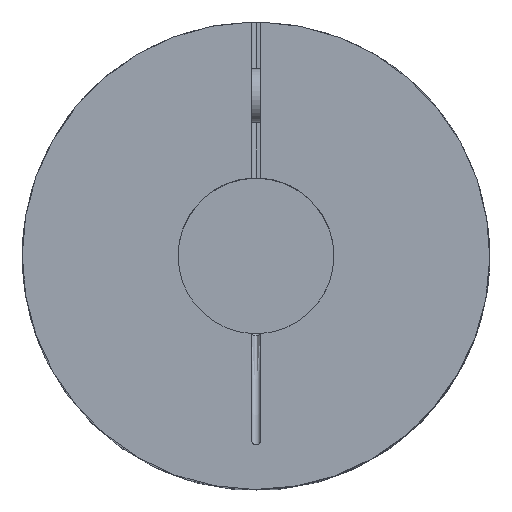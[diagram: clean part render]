
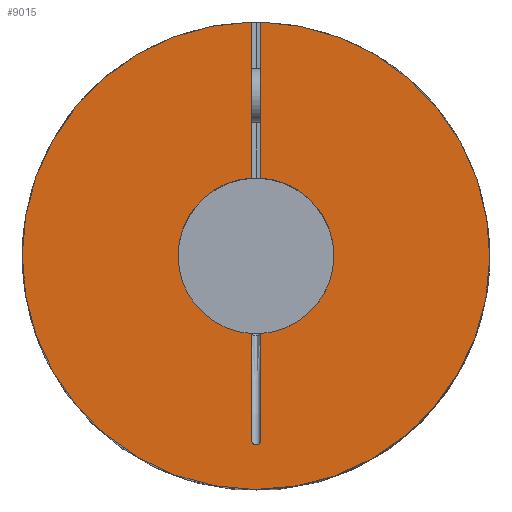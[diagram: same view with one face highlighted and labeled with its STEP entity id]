
A CAD part, top view. The second image highlights one B-rep face of the part: STEP entity #9015.
In plain terms, the highlighted planar face has unit normal (0, 0, 1).
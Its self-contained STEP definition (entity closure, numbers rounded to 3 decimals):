
#58=CARTESIAN_POINT('',(0.,0.,70.));
#59=DIRECTION('',(0.,0.,1.));
#60=DIRECTION('',(-0.057,0.998,0.));
#61=AXIS2_PLACEMENT_3D('',#58,#59,#60);
#63=DIRECTION('',(0.,-1.,0.));
#64=VECTOR('',#63,23.907);
#65=CARTESIAN_POINT('',(-1.,-17.471,70.));
#66=LINE('',#65,#64);
#67=CARTESIAN_POINT('',(-1.,-41.378,70.));
#68=CARTESIAN_POINT('',(-1.,-41.459,70.));
#69=CARTESIAN_POINT('',(-0.985,-41.614,70.));
#70=CARTESIAN_POINT('',(-0.92,-41.838,70.));
#71=CARTESIAN_POINT('',(-0.818,-42.036,70.));
#72=CARTESIAN_POINT('',(-0.686,-42.204,70.));
#73=CARTESIAN_POINT('',(-0.532,-42.336,70.));
#74=CARTESIAN_POINT('',(-0.363,-42.431,70.));
#75=CARTESIAN_POINT('',(-0.184,-42.487,70.));
#76=CARTESIAN_POINT('',(0.,-42.506,70.));
#77=CARTESIAN_POINT('',(0.184,-42.487,70.));
#78=CARTESIAN_POINT('',(0.363,-42.431,70.));
#79=CARTESIAN_POINT('',(0.532,-42.336,70.));
#80=CARTESIAN_POINT('',(0.686,-42.204,70.));
#81=CARTESIAN_POINT('',(0.818,-42.036,70.));
#82=CARTESIAN_POINT('',(0.92,-41.838,70.));
#83=CARTESIAN_POINT('',(0.985,-41.614,70.));
#84=CARTESIAN_POINT('',(1.,-41.459,70.));
#85=CARTESIAN_POINT('',(1.,-41.378,70.));
#87=DIRECTION('',(0.,-1.,0.));
#88=VECTOR('',#87,23.907);
#89=CARTESIAN_POINT('',(1.,-17.471,70.));
#90=LINE('',#89,#88);
#91=CARTESIAN_POINT('',(0.,0.,70.));
#92=DIRECTION('',(0.,0.,1.));
#93=DIRECTION('',(0.057,-0.998,0.));
#94=AXIS2_PLACEMENT_3D('',#91,#92,#93);
#96=DIRECTION('',(0.,-1.,0.));
#97=VECTOR('',#96,35.019);
#98=CARTESIAN_POINT('',(1.,52.49,70.));
#99=LINE('',#98,#97);
#100=CARTESIAN_POINT('',(0.,0.,70.));
#101=DIRECTION('',(0.,0.,-1.));
#102=DIRECTION('',(-1.,0.,0.));
#103=AXIS2_PLACEMENT_3D('',#100,#101,#102);
#105=DIRECTION('',(0.,-1.,0.));
#106=VECTOR('',#105,35.019);
#107=CARTESIAN_POINT('',(-1.,52.49,70.));
#108=LINE('',#107,#106);
#2810=CARTESIAN_POINT('',(0.,0.,70.));
#2811=DIRECTION('',(0.,0.,1.));
#2812=DIRECTION('',(-1.,0.,0.));
#2813=AXIS2_PLACEMENT_3D('',#2810,#2811,#2812);
#7311=CARTESIAN_POINT('',(-52.5,0.,70.));
#7313=VERTEX_POINT('',#7311);
#7465=CARTESIAN_POINT('',(1.,52.49,70.));
#7467=VERTEX_POINT('',#7465);
#7469=CARTESIAN_POINT('',(-1.,52.49,70.));
#7470=VERTEX_POINT('',#7469);
#7475=VERTEX_POINT('',#67);
#7476=VERTEX_POINT('',#85);
#7491=CARTESIAN_POINT('',(-1.,17.471,70.));
#7492=CARTESIAN_POINT('',(-1.,-17.471,70.));
#7493=VERTEX_POINT('',#7491);
#7494=VERTEX_POINT('',#7492);
#7495=CARTESIAN_POINT('',(1.,-17.471,70.));
#7496=CARTESIAN_POINT('',(1.,17.471,70.));
#7497=VERTEX_POINT('',#7495);
#7498=VERTEX_POINT('',#7496);
#8990=CARTESIAN_POINT('',(0.,0.,70.));
#8991=DIRECTION('',(0.,0.,-1.));
#8992=DIRECTION('',(1.,0.,0.));
#8993=AXIS2_PLACEMENT_3D('',#8990,#8991,#8992);
#8994=PLANE('',#8993);
#8996=ORIENTED_EDGE('',*,*,#8995,.T.);
#8998=ORIENTED_EDGE('',*,*,#8997,.T.);
#9000=ORIENTED_EDGE('',*,*,#8999,.T.);
#9002=ORIENTED_EDGE('',*,*,#9001,.F.);
#9004=ORIENTED_EDGE('',*,*,#9003,.T.);
#9006=ORIENTED_EDGE('',*,*,#9005,.F.);
#9008=ORIENTED_EDGE('',*,*,#9007,.F.);
#9010=ORIENTED_EDGE('',*,*,#9009,.T.);
#9012=ORIENTED_EDGE('',*,*,#9011,.T.);
#9013=EDGE_LOOP('',(#8996,#8998,#9000,#9002,#9004,#9006,#9008,#9010,#9012));
#9014=FACE_OUTER_BOUND('',#9013,.F.);
#9015=ADVANCED_FACE('',(#9014),#8994,.F.);
#62=CIRCLE('',#61,17.5);
#86=B_SPLINE_CURVE_WITH_KNOTS('',3,(#67,#68,#69,#70,#71,#72,#73,#74,#75,#76,#77,
#78,#79,#80,#81,#82,#83,#84,#85),.UNSPECIFIED.,.F.,.F.,(4,1,1,1,1,1,1,1,1,1,1,1,
1,1,1,1,4),(0.,0.063,0.125,0.188,0.25,0.313,0.375,0.438,
0.5,0.563,0.625,0.688,0.75,0.813,0.875,0.938,1.),
.UNSPECIFIED.);
#95=CIRCLE('',#94,17.5);
#104=CIRCLE('',#103,52.5);
#2814=CIRCLE('',#2813,52.5);
#8995=EDGE_CURVE('',#7493,#7494,#62,.T.);
#8997=EDGE_CURVE('',#7494,#7475,#66,.T.);
#8999=EDGE_CURVE('',#7475,#7476,#86,.T.);
#9001=EDGE_CURVE('',#7497,#7476,#90,.T.);
#9003=EDGE_CURVE('',#7497,#7498,#95,.T.);
#9005=EDGE_CURVE('',#7467,#7498,#99,.T.);
#9007=EDGE_CURVE('',#7313,#7467,#2814,.T.);
#9009=EDGE_CURVE('',#7313,#7470,#104,.T.);
#9011=EDGE_CURVE('',#7470,#7493,#108,.T.);
